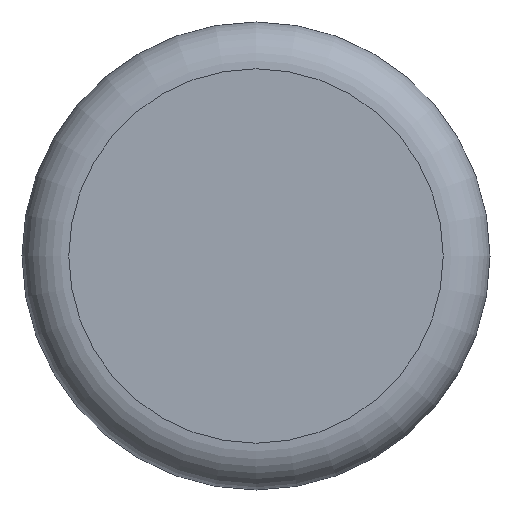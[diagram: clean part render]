
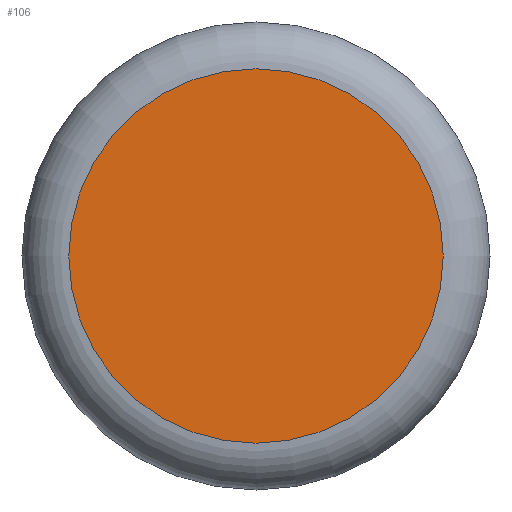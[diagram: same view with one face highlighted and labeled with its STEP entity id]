
A CAD part, front view. The second image highlights one B-rep face of the part: STEP entity #106.
In plain terms, the highlighted planar face has unit normal (0, -1, 0).
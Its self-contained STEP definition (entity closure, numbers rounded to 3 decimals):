
#31 = TOROIDAL_SURFACE('',#32,1.6,0.4);
#32 = AXIS2_PLACEMENT_3D('',#33,#34,#35);
#33 = CARTESIAN_POINT('',(-23.6,5.,-4.7));
#34 = DIRECTION('',(0.,-1.,0.));
#35 = DIRECTION('',(0.,-0.,-1.));
#56 = VERTEX_POINT('',#57);
#57 = CARTESIAN_POINT('',(-23.6,4.6,-6.3));
#79 = EDGE_CURVE('',#56,#56,#80,.T.);
#80 = SURFACE_CURVE('',#81,(#86,#93),.PCURVE_S1.);
#81 = CIRCLE('',#82,1.6);
#82 = AXIS2_PLACEMENT_3D('',#83,#84,#85);
#83 = CARTESIAN_POINT('',(-23.6,4.6,-4.7));
#84 = DIRECTION('',(0.,-1.,0.));
#85 = DIRECTION('',(0.,0.,-1.));
#86 = PCURVE('',#31,#87);
#87 = DEFINITIONAL_REPRESENTATION('',(#88),#92);
#88 = LINE('',#89,#90);
#89 = CARTESIAN_POINT('',(0.,1.571));
#90 = VECTOR('',#91,1.);
#91 = DIRECTION('',(1.,0.));
#92 = ( GEOMETRIC_REPRESENTATION_CONTEXT(2) 
PARAMETRIC_REPRESENTATION_CONTEXT() REPRESENTATION_CONTEXT('2D SPACE',''
  ) );
#93 = PCURVE('',#94,#99);
#94 = PLANE('',#95);
#95 = AXIS2_PLACEMENT_3D('',#96,#97,#98);
#96 = CARTESIAN_POINT('',(-23.6,4.6,-4.7));
#97 = DIRECTION('',(0.,-1.,0.));
#98 = DIRECTION('',(0.,-0.,-1.));
#99 = DEFINITIONAL_REPRESENTATION('',(#100),#104);
#100 = CIRCLE('',#101,1.6);
#101 = AXIS2_PLACEMENT_2D('',#102,#103);
#102 = CARTESIAN_POINT('',(0.,0.));
#103 = DIRECTION('',(1.,0.));
#104 = ( GEOMETRIC_REPRESENTATION_CONTEXT(2) 
PARAMETRIC_REPRESENTATION_CONTEXT() REPRESENTATION_CONTEXT('2D SPACE',''
  ) );
#106 = ADVANCED_FACE('',(#107),#94,.T.);
#107 = FACE_BOUND('',#108,.T.);
#108 = EDGE_LOOP('',(#109));
#109 = ORIENTED_EDGE('',*,*,#79,.T.);
